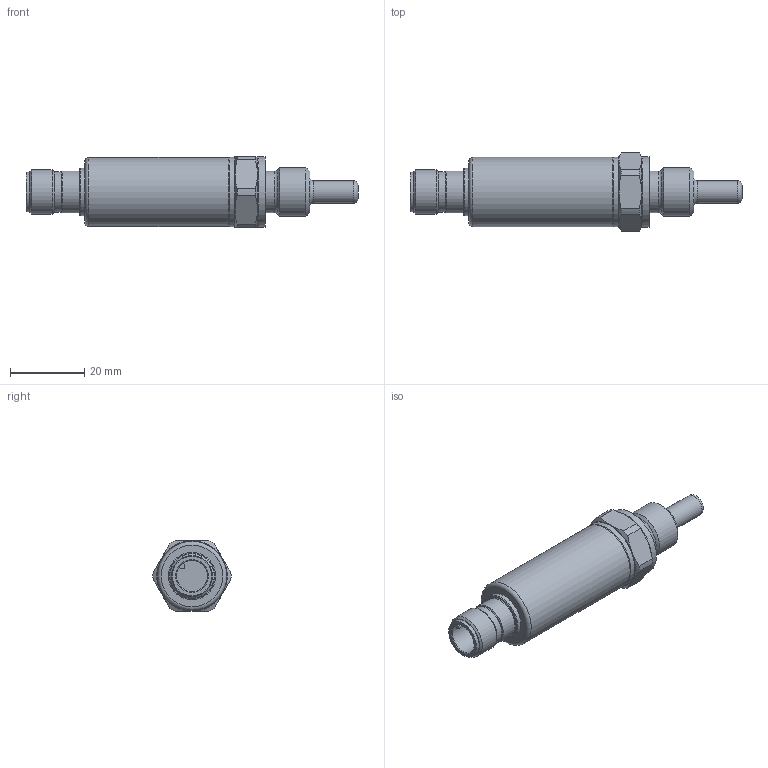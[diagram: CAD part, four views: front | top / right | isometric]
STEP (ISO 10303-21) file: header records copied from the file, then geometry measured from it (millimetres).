
FILE_DESCRIPTION( ( 'STEP AP203' ), ' ' );
FILE_NAME( 'p:/temp/worker_8942/6588_6148/app_50_02017032309510575550276192d056f_000000_00_00_000000/format_1/TV7105.stp', '2017-03-23T08:51:08', ( '' ), ( '' ), ' ', 'PARTsolutions', ' ' );
FILE_SCHEMA( ( 'CONFIG_CONTROL_DESIGN' ) );
Length unit declared in the file: millimetre
Products named in the file (1): _TV7105
Bounding box: 89.33 x 20.99 x 19 mm (x, y, z)
Volume: 16292.1 mm3; surface area: 5070.2 mm2
Topology: 1 solids, 1 shells, 71 faces, 153 edges, 92 vertices
Faces by surface type: cylinder 20, plane 19, cone 18, torus 14
Full cylindrical faces by diameter (mm): 6 x1, 8.4 x1, 10.6 x1, 10.8 x1, 11.2 x1, 11.3 x1, 12 x1, 12.7 x1, 13.157 x1, 16.6 x1, 18.58 x1, 18.75 x1, 18.9 x1
Entity records: 1890 total; most frequent: CARTESIAN_POINT 454, DIRECTION 300, ORIENTED_EDGE 236, AXIS2_PLACEMENT_3D 140, EDGE_CURVE 118, EDGE_LOOP 112, FACE_OUTER_BOUND 98, VERTEX_POINT 90
